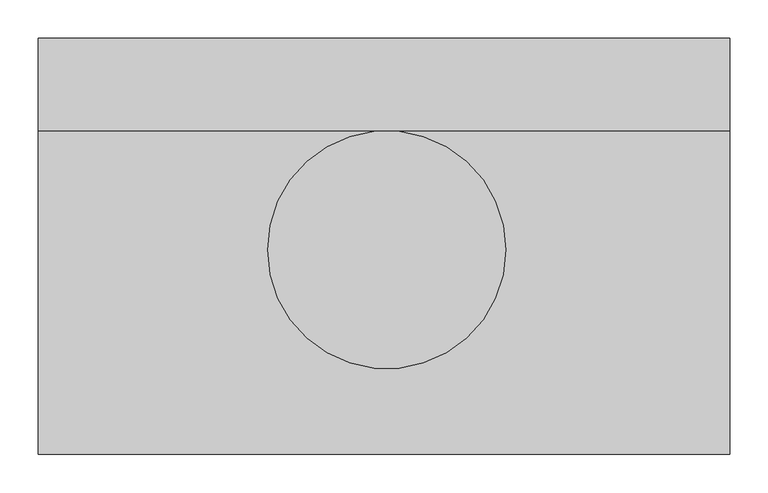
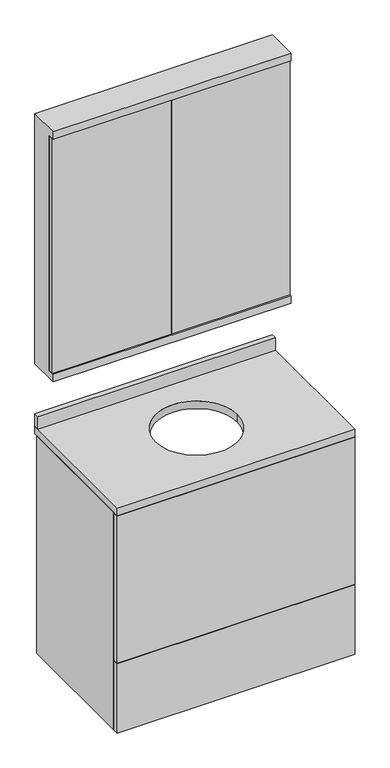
"""IFC4 building model written with IfcOpenShell, lengths in millimetres: furniture geometry, Mueble para Baño 6 : Único."""

from ifc_helpers import new_model, si_unit, point, frame, frame_2d, origin, place, context, project, spatial, polyline, circle_curve, trimmed, segment, composite_curve, outline, extrude, faceted_brep, source, transform, mapped, element, save


def furniture_16c61466(model_context):
    return source(origin(), model_context, "Body", "SolidModel", [
        faceted_brep([(450.0, -120.0, 2220.0), (450.0, -120.0, 2250.0), (-450.0, -120.0, 2250.0), (-450.0, -120.0, 2220.0), (450.0, 0.0, 2250.0), (-450.0, 0.0, 2250.0), (-450.0, -95.0, 2220.0), (-430.0, -95.0, 2220.0), (-430.0, -20.0, 2220.0), (430.0, -20.0, 2220.0), (430.0, -95.0, 2220.0), (450.0, -95.0, 2220.0), (-430.0, -95.0, 1280.0), (-450.0, -95.0, 1280.0), (450.0, -95.0, 1280.0), (430.0, -95.0, 1280.0), (-430.0, -20.0, 1280.0), (430.0, -20.0, 1280.0), (450.0, -120.0, 1250.0), (450.0, -120.0, 1280.0), (-450.0, -120.0, 1280.0), (-450.0, -120.0, 1250.0), (450.0, 0.0, 1250.0), (420.0, 0.0, 1250.0), (420.0, 0.0, 1270.0), (-420.0, 0.0, 1270.0), (-420.0, 0.0, 1250.0), (-450.0, 0.0, 1250.0), (-420.0, -20.0, 1250.0), (420.0, -20.0, 1250.0), (420.0, -20.0, 1270.0), (-420.0, -20.0, 1270.0)], [[[0, 1, 2, 3]], [[2, 1, 4, 5]], [[0, 3, 6, 7, 8, 9, 10, 11]], [[12, 7, 6, 13]], [[14, 11, 10, 15]], [[7, 12, 16, 8]], [[15, 10, 9, 17]], [[16, 17, 9, 8]], [[18, 19, 20, 21]], [[5, 4, 22, 23, 24, 25, 26, 27]], [[19, 18, 22, 4, 1, 0, 11, 14]], [[20, 19, 14, 15, 17, 16, 12, 13]], [[21, 20, 13, 6, 3, 2, 5, 27]], [[18, 21, 27, 26, 28, 29, 23, 22]], [[29, 30, 24, 23]], [[25, 31, 28, 26]], [[24, 30, 31, 25]], [[30, 29, 28, 31]]]),
        extrude(outline(polyline([(-450.0, 0.0), (450.0, 0.0), (450.0, -20.0), (-450.0, -20.0), (-450.0, 0.0)])), frame((0.0, 0.0, 1000.0), z_axis=(0.0, 0.0, 1.0), x_axis=(1.0, 0.0, 0.0)), (0.0, 0.0, 1.0), 50.0),
        extrude(outline(polyline([(450.0, -115.0), (1.0, -115.0), (1.0, -95.0), (450.0, -95.0), (450.0, -115.0)])), frame((0.0, 0.0, 1280.0), z_axis=(0.0, 0.0, 1.0), x_axis=(1.0, 0.0, 0.0)), (0.0, 0.0, 1.0), 940.0),
        extrude(outline(polyline([(-1.0, -115.0), (-450.0, -115.0), (-450.0, -95.0), (-1.0, -95.0), (-1.0, -115.0)])), frame((0.0, 0.0, 1280.0), z_axis=(0.0, 0.0, 1.0), x_axis=(1.0, 0.0, 0.0)), (0.0, 0.0, 1.0), 940.0),
        extrude(outline(polyline([(450.0, -541.0), (-450.0, -541.0), (-450.0, -521.0), (450.0, -521.0), (450.0, -541.0)])), frame((0.0, 0.0, 100.0), z_axis=(0.0, 0.0, 1.0), x_axis=(1.0, 0.0, 0.0)), (0.0, 0.0, 1.0), 278.25),
        extrude(outline(polyline([(450.0, -541.0), (-450.0, -541.0), (-450.0, -521.0), (450.0, -521.0), (450.0, -541.0)])), frame((0.0, 0.0, 380.25), z_axis=(0.0, 0.0, 1.0), x_axis=(1.0, 0.0, 0.0)), (0.0, 0.0, 1.0), 587.75),
        extrude(outline(polyline([(100.0, 450.0), (970.0, 450.0), (970.0, 430.0), (120.0, 430.0), (120.0, -430.0), (970.0, -430.0), (970.0, -450.0), (100.0, -450.0), (100.0, 450.0)])), frame((0.0, -518.0, 0.0), z_axis=(0.0, 1.0, 0.0), x_axis=(0.0, 0.0, 1.0)), (0.0, 0.0, 1.0), 505.0),
        extrude(outline(polyline([(-450.0, -541.0), (-450.0, 0.0), (450.0, 0.0), (450.0, -541.0), (-450.0, -541.0)]), holes=[composite_curve([segment(trimmed(circle_curve(frame_2d((3.5148844, -275.0)), 155.0), [point((-151.4851156, -275.0))], [point((158.5148844, -275.0))], True, "CARTESIAN"), True, "CONTINUOUS"), segment(trimmed(circle_curve(frame_2d((3.5148844, -275.0)), 155.0), [point((158.5148844, -275.0))], [point((-151.4851156, -275.0))], True, "CARTESIAN"), True, "CONTINUOUS")], self_intersect=False)]), frame((0.0, 0.0, 970.0), z_axis=(0.0, 0.0, 1.0), x_axis=(1.0, 0.0, 0.0)), (0.0, 0.0, 1.0), 30.0),
    ])


if __name__ == "__main__":
    model = new_model("IFC4")
    model_context = context("Model", 3, world=origin())
    ifc_project = project(units=[si_unit("LENGTHUNIT", "METRE", prefix="MILLI")], contexts=[model_context])
    site = spatial("IfcSite", under=ifc_project)
    building = spatial("IfcBuilding", under=site)
    placement = place(None, origin())
    furniture_shape = furniture_16c61466(model_context)
    element("IfcFurniture", 1, ObjectType="Mueble para Baño 6 : Único", at=placement, inside=building, context=model_context, shape_type="MappedRepresentation", body=[
        mapped(furniture_shape, transform((0.0, 0.0, 0.0), x_axis=(1.0, 0.0, 0.0), y_axis=(0.0, 1.0, 0.0), z_axis=(0.0, 0.0, 1.0))),
    ])
    save(model, "model.ifc")
